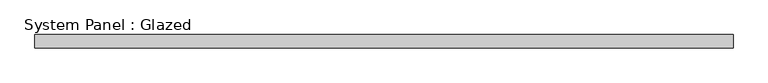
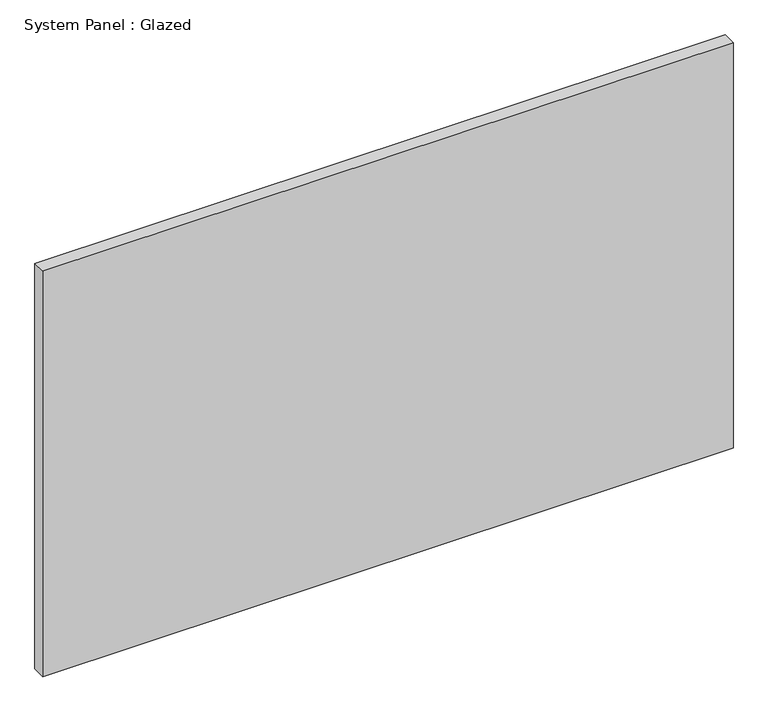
"""IFC4 building model written with IfcOpenShell, lengths in millimetres: plate geometry, System Panel : Glazed."""

from ifc_helpers import new_model, si_unit, origin, origin_with_axes, place, context, project, spatial, polyline, outline, extrude, source, transform, mapped, element, save


def system_panel_glazed_afd70c25(model_context):
    return source(origin(), model_context, "Body", "SweptSolid", [
        extrude(outline(polyline([(655.4238159, 19.05), (-655.4238159, 19.05), (-655.4238159, 44.45), (655.4238159, 44.45), (655.4238159, 19.05)])), origin_with_axes(), (0.0, 0.0, 1.0), 814.714222),
    ])


if __name__ == "__main__":
    model = new_model("IFC4")
    model_context = context("Model", 3, world=origin())
    ifc_project = project(units=[si_unit("LENGTHUNIT", "METRE", prefix="MILLI")], contexts=[model_context])
    site = spatial("IfcSite", under=ifc_project)
    building = spatial("IfcBuilding", under=site)
    placement = place(None, origin())
    system_panel_glazed_shape = system_panel_glazed_afd70c25(model_context)
    element("IfcPlate", 1, ObjectType="System Panel : Glazed", at=placement, inside=building, context=model_context, shape_type="MappedRepresentation", body=[
        mapped(system_panel_glazed_shape, transform((0.0, 0.0, 0.0), x_axis=(1.0, 0.0, 0.0), y_axis=(0.0, 1.0, 0.0), z_axis=(0.0, 0.0, 1.0))),
    ])
    save(model, "model.ifc")
